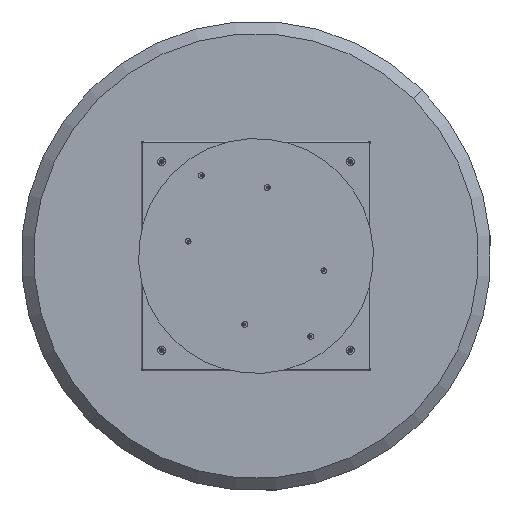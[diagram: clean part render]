
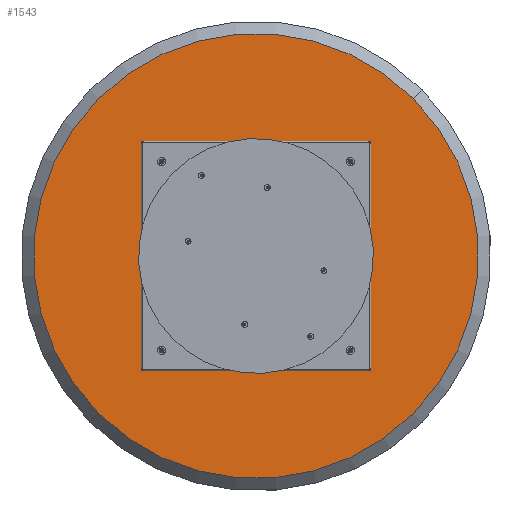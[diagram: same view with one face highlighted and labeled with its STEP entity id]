
A CAD part, front view. The second image highlights one B-rep face of the part: STEP entity #1543.
In plain terms, the highlighted planar face has unit normal (0, -1, 0).
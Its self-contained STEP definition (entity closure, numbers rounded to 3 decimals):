
#42 = CIRCLE ( 'NONE', #17350, 3.4 ) ;
#67 = DIRECTION ( 'NONE',  ( 0., -1., 0. ) ) ;
#529 = VERTEX_POINT ( 'NONE', #16477 ) ;
#557 = VERTEX_POINT ( 'NONE', #18411 ) ;
#595 = CARTESIAN_POINT ( 'NONE',  ( 0., 0., 0. ) ) ;
#778 = DIRECTION ( 'NONE',  ( 0., 0., -1. ) ) ;
#1543 = ADVANCED_FACE ( 'NONE', ( #10017, #21091, #20738, #2894, #11937 ), #17103, .T. ) ;
#1615 = ORIENTED_EDGE ( 'NONE', *, *, #8366, .T. ) ;
#1662 = AXIS2_PLACEMENT_3D ( 'NONE', #12373, #15734, #6579 ) ;
#1770 = DIRECTION ( 'NONE',  ( 0., -1., 0. ) ) ;
#2189 = EDGE_CURVE ( 'NONE', #12222, #529, #18276, .T. ) ;
#2217 = EDGE_CURVE ( 'NONE', #19854, #8349, #10984, .T. ) ;
#2565 = DIRECTION ( 'NONE',  ( 0., 0., -1. ) ) ;
#2649 = CIRCLE ( 'NONE', #16120, 3.4 ) ;
#2894 = FACE_BOUND ( 'NONE', #23645, .T. ) ;
#3070 = ORIENTED_EDGE ( 'NONE', *, *, #10271, .F. ) ;
#3329 = CIRCLE ( 'NONE', #16785, 3.4 ) ;
#3464 = AXIS2_PLACEMENT_3D ( 'NONE', #11892, #15857, #21281 ) ;
#3470 = EDGE_CURVE ( 'NONE', #7052, #11985, #3329, .T. ) ;
#3922 = DIRECTION ( 'NONE',  ( 0., -1., 0. ) ) ;
#4234 = CARTESIAN_POINT ( 'NONE',  ( 0., 0., 663. ) ) ;
#4235 = EDGE_CURVE ( 'NONE', #16599, #17547, #16062, .T. ) ;
#4398 = CARTESIAN_POINT ( 'NONE',  ( 0., 0., 397.5 ) ) ;
#4520 = CARTESIAN_POINT ( 'NONE',  ( 0., 0., 394.1 ) ) ;
#5193 = AXIS2_PLACEMENT_3D ( 'NONE', #16570, #67, #9959 ) ;
#5735 = DIRECTION ( 'NONE',  ( 0., 0., -1. ) ) ;
#6081 = ORIENTED_EDGE ( 'NONE', *, *, #2189, .T. ) ;
#6120 = CARTESIAN_POINT ( 'NONE',  ( 397.5, 0., 0. ) ) ;
#6579 = DIRECTION ( 'NONE',  ( 0., 0., -1. ) ) ;
#6699 = DIRECTION ( 'NONE',  ( 0., 0., -1. ) ) ;
#7052 = VERTEX_POINT ( 'NONE', #18823 ) ;
#7146 = ORIENTED_EDGE ( 'NONE', *, *, #2217, .F. ) ;
#7385 = AXIS2_PLACEMENT_3D ( 'NONE', #15848, #23196, #6699 ) ;
#7958 = CARTESIAN_POINT ( 'NONE',  ( -397.5, 0., 3.4 ) ) ;
#8349 = VERTEX_POINT ( 'NONE', #19497 ) ;
#8366 = EDGE_CURVE ( 'NONE', #529, #12222, #16240, .T. ) ;
#8989 = EDGE_LOOP ( 'NONE', ( #6081, #1615 ) ) ;
#9534 = EDGE_CURVE ( 'NONE', #557, #9569, #42, .T. ) ;
#9569 = VERTEX_POINT ( 'NONE', #14200 ) ;
#9687 = EDGE_LOOP ( 'NONE', ( #7146, #3070 ) ) ;
#9959 = DIRECTION ( 'NONE',  ( 0., 0., -1. ) ) ;
#10017 = FACE_OUTER_BOUND ( 'NONE', #8989, .T. ) ;
#10271 = EDGE_CURVE ( 'NONE', #8349, #19854, #17782, .T. ) ;
#10273 = CARTESIAN_POINT ( 'NONE',  ( 0., 0., -397.5 ) ) ;
#10491 = AXIS2_PLACEMENT_3D ( 'NONE', #12970, #1770, #12630 ) ;
#10984 = CIRCLE ( 'NONE', #20205, 3.4 ) ;
#11082 = ORIENTED_EDGE ( 'NONE', *, *, #3470, .F. ) ;
#11549 = EDGE_CURVE ( 'NONE', #9569, #557, #12460, .T. ) ;
#11892 = CARTESIAN_POINT ( 'NONE',  ( -397.5, 0., 0. ) ) ;
#11937 = FACE_BOUND ( 'NONE', #9687, .T. ) ;
#11985 = VERTEX_POINT ( 'NONE', #15939 ) ;
#12057 = ORIENTED_EDGE ( 'NONE', *, *, #21735, .F. ) ;
#12062 = DIRECTION ( 'NONE',  ( 0., 0., -1. ) ) ;
#12222 = VERTEX_POINT ( 'NONE', #4234 ) ;
#12312 = DIRECTION ( 'NONE',  ( 0., 0., -1. ) ) ;
#12373 = CARTESIAN_POINT ( 'NONE',  ( 397.5, 0., 0. ) ) ;
#12460 = CIRCLE ( 'NONE', #1662, 3.4 ) ;
#12630 = DIRECTION ( 'NONE',  ( 0., 0., -1. ) ) ;
#12970 = CARTESIAN_POINT ( 'NONE',  ( 0., 0., 0. ) ) ;
#13343 = CARTESIAN_POINT ( 'NONE',  ( -397.5, 0., -3.4 ) ) ;
#13416 = CARTESIAN_POINT ( 'NONE',  ( -397.5, 0., 0. ) ) ;
#13714 = DIRECTION ( 'NONE',  ( 0., 0., -1. ) ) ;
#14200 = CARTESIAN_POINT ( 'NONE',  ( 397.5, 0., -3.4 ) ) ;
#15475 = ORIENTED_EDGE ( 'NONE', *, *, #22726, .F. ) ;
#15734 = DIRECTION ( 'NONE',  ( 0., -1., 0. ) ) ;
#15848 = CARTESIAN_POINT ( 'NONE',  ( 0., 0., 397.5 ) ) ;
#15857 = DIRECTION ( 'NONE',  ( 0., -1., 0. ) ) ;
#15939 = CARTESIAN_POINT ( 'NONE',  ( 0., 0., -400.9 ) ) ;
#16062 = CIRCLE ( 'NONE', #19141, 3.4 ) ;
#16120 = AXIS2_PLACEMENT_3D ( 'NONE', #10273, #21703, #12312 ) ;
#16240 = CIRCLE ( 'NONE', #10491, 663. ) ;
#16477 = CARTESIAN_POINT ( 'NONE',  ( 0., 0., -663. ) ) ;
#16570 = CARTESIAN_POINT ( 'NONE',  ( 0., 0., 0. ) ) ;
#16599 = VERTEX_POINT ( 'NONE', #13343 ) ;
#16785 = AXIS2_PLACEMENT_3D ( 'NONE', #19781, #3922, #5735 ) ;
#17008 = ORIENTED_EDGE ( 'NONE', *, *, #9534, .F. ) ;
#17103 = PLANE ( 'NONE',  #20218 ) ;
#17137 = DIRECTION ( 'NONE',  ( 0., -1., 0. ) ) ;
#17350 = AXIS2_PLACEMENT_3D ( 'NONE', #6120, #22871, #13714 ) ;
#17547 = VERTEX_POINT ( 'NONE', #7958 ) ;
#17782 = CIRCLE ( 'NONE', #7385, 3.4 ) ;
#18276 = CIRCLE ( 'NONE', #5193, 663. ) ;
#18411 = CARTESIAN_POINT ( 'NONE',  ( 397.5, 0., 3.4 ) ) ;
#18823 = CARTESIAN_POINT ( 'NONE',  ( 0., 0., -394.1 ) ) ;
#19141 = AXIS2_PLACEMENT_3D ( 'NONE', #13416, #17137, #2565 ) ;
#19257 = ORIENTED_EDGE ( 'NONE', *, *, #11549, .F. ) ;
#19497 = CARTESIAN_POINT ( 'NONE',  ( 0., 0., 400.9 ) ) ;
#19781 = CARTESIAN_POINT ( 'NONE',  ( 0., 0., -397.5 ) ) ;
#19854 = VERTEX_POINT ( 'NONE', #4520 ) ;
#20205 = AXIS2_PLACEMENT_3D ( 'NONE', #4398, #21036, #778 ) ;
#20218 = AXIS2_PLACEMENT_3D ( 'NONE', #595, #22657, #12062 ) ;
#20738 = FACE_BOUND ( 'NONE', #21147, .T. ) ;
#21036 = DIRECTION ( 'NONE',  ( 0., -1., 0. ) ) ;
#21091 = FACE_BOUND ( 'NONE', #22115, .T. ) ;
#21147 = EDGE_LOOP ( 'NONE', ( #21921, #15475 ) ) ;
#21281 = DIRECTION ( 'NONE',  ( 0., 0., -1. ) ) ;
#21703 = DIRECTION ( 'NONE',  ( 0., -1., 0. ) ) ;
#21735 = EDGE_CURVE ( 'NONE', #11985, #7052, #2649, .T. ) ;
#21921 = ORIENTED_EDGE ( 'NONE', *, *, #4235, .F. ) ;
#22115 = EDGE_LOOP ( 'NONE', ( #12057, #11082 ) ) ;
#22657 = DIRECTION ( 'NONE',  ( 0., -1., 0. ) ) ;
#22726 = EDGE_CURVE ( 'NONE', #17547, #16599, #23468, .T. ) ;
#22871 = DIRECTION ( 'NONE',  ( 0., -1., 0. ) ) ;
#23196 = DIRECTION ( 'NONE',  ( 0., -1., 0. ) ) ;
#23468 = CIRCLE ( 'NONE', #3464, 3.4 ) ;
#23645 = EDGE_LOOP ( 'NONE', ( #19257, #17008 ) ) ;
